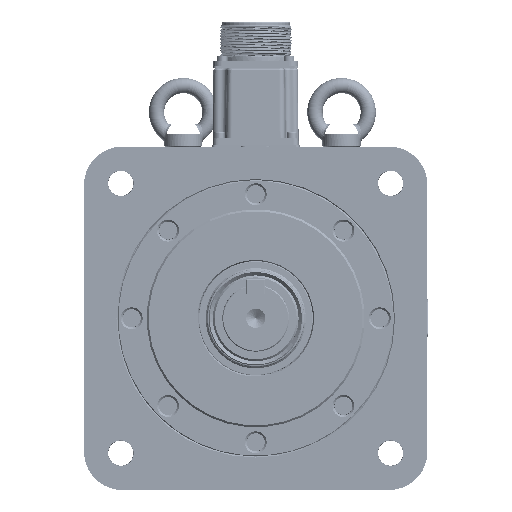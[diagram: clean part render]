
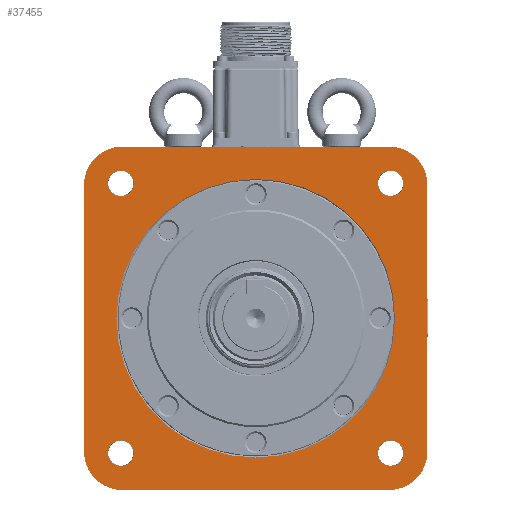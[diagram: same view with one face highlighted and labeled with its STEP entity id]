
A CAD part, front view. The second image highlights one B-rep face of the part: STEP entity #37455.
In plain terms, the highlighted planar face has unit normal (0, -1, 0).
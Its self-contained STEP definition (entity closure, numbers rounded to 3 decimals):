
#2858=LINE('',#69357,#5470);
#2942=LINE('',#73485,#5554);
#2947=LINE('',#73493,#5559);
#2952=LINE('',#73501,#5564);
#5470=VECTOR('',#48229,1000.);
#5554=VECTOR('',#49143,1000.);
#5559=VECTOR('',#49150,1000.);
#5564=VECTOR('',#49157,1000.);
#8065=PLANE('',#41020);
#15096=ORIENTED_EDGE('',*,*,#21872,.T.);
#15097=ORIENTED_EDGE('',*,*,#21787,.F.);
#15098=ORIENTED_EDGE('',*,*,#21796,.F.);
#15099=ORIENTED_EDGE('',*,*,#21817,.F.);
#15100=ORIENTED_EDGE('',*,*,#21807,.F.);
#15101=ORIENTED_EDGE('',*,*,#21843,.T.);
#15102=ORIENTED_EDGE('',*,*,#21847,.T.);
#15103=ORIENTED_EDGE('',*,*,#21838,.T.);
#15104=ORIENTED_EDGE('',*,*,#21848,.T.);
#15105=ORIENTED_EDGE('',*,*,#21833,.T.);
#15106=ORIENTED_EDGE('',*,*,#21849,.T.);
#15107=ORIENTED_EDGE('',*,*,#21363,.T.);
#15108=ORIENTED_EDGE('',*,*,#21846,.T.);
#21363=EDGE_CURVE('',#25600,#25599,#2858,.T.);
#21787=EDGE_CURVE('',#25880,#25880,#28142,.F.);
#21796=EDGE_CURVE('',#25888,#25888,#28148,.F.);
#21807=EDGE_CURVE('',#25898,#25898,#28156,.F.);
#21817=EDGE_CURVE('',#25908,#25908,#28162,.F.);
#21833=EDGE_CURVE('',#25919,#25918,#2942,.T.);
#21838=EDGE_CURVE('',#25921,#25920,#2947,.T.);
#21843=EDGE_CURVE('',#25923,#25922,#2952,.T.);
#21846=EDGE_CURVE('',#25599,#25923,#28168,.F.);
#21847=EDGE_CURVE('',#25922,#25921,#28169,.F.);
#21848=EDGE_CURVE('',#25920,#25919,#28170,.F.);
#21849=EDGE_CURVE('',#25918,#25600,#28171,.F.);
#21872=EDGE_CURVE('',#25934,#25934,#28182,.T.);
#25599=VERTEX_POINT('',#69356);
#25600=VERTEX_POINT('',#69358);
#25880=VERTEX_POINT('',#73388);
#25888=VERTEX_POINT('',#73407);
#25898=VERTEX_POINT('',#73432);
#25908=VERTEX_POINT('',#73454);
#25918=VERTEX_POINT('',#73484);
#25919=VERTEX_POINT('',#73486);
#25920=VERTEX_POINT('',#73492);
#25921=VERTEX_POINT('',#73494);
#25922=VERTEX_POINT('',#73500);
#25923=VERTEX_POINT('',#73502);
#25934=VERTEX_POINT('',#73566);
#28142=CIRCLE('',#40942,6.745);
#28148=CIRCLE('',#40950,6.745);
#28156=CIRCLE('',#40962,6.745);
#28162=CIRCLE('',#40970,6.745);
#28168=CIRCLE('',#40984,20.);
#28169=CIRCLE('',#40986,20.);
#28170=CIRCLE('',#40988,20.);
#28171=CIRCLE('',#40990,20.);
#28182=CIRCLE('',#41021,73.);
#30807=EDGE_LOOP('',(#15096));
#30808=EDGE_LOOP('',(#15097));
#30809=EDGE_LOOP('',(#15098));
#30810=EDGE_LOOP('',(#15099));
#30811=EDGE_LOOP('',(#15100));
#30812=EDGE_LOOP('',(#15101,#15102,#15103,#15104,#15105,#15106,#15107,#15108));
#34122=FACE_BOUND('',#30807,.T.);
#34123=FACE_BOUND('',#30808,.T.);
#34124=FACE_BOUND('',#30809,.T.);
#34125=FACE_BOUND('',#30810,.T.);
#34126=FACE_BOUND('',#30811,.T.);
#34127=FACE_BOUND('',#30812,.T.);
#37455=ADVANCED_FACE('',(#34122,#34123,#34124,#34125,#34126,#34127),#8065,
 .F.);
#40942=AXIS2_PLACEMENT_3D('',#73387,#49045,#49046);
#40950=AXIS2_PLACEMENT_3D('',#73406,#49064,#49065);
#40962=AXIS2_PLACEMENT_3D('',#73431,#49091,#49092);
#40970=AXIS2_PLACEMENT_3D('',#73453,#49111,#49112);
#40984=AXIS2_PLACEMENT_3D('',#73506,#49162,#49163);
#40986=AXIS2_PLACEMENT_3D('',#73508,#49166,#49167);
#40988=AXIS2_PLACEMENT_3D('',#73510,#49170,#49171);
#40990=AXIS2_PLACEMENT_3D('',#73512,#49174,#49175);
#41020=AXIS2_PLACEMENT_3D('',#73564,#49246,#49247);
#41021=AXIS2_PLACEMENT_3D('',#73565,#49248,#49249);
#48229=DIRECTION('',(-1.,0.,0.));
#49045=DIRECTION('',(0.,1.,0.));
#49046=DIRECTION('',(0.,0.,1.));
#49064=DIRECTION('',(0.,1.,0.));
#49065=DIRECTION('',(0.,0.,1.));
#49091=DIRECTION('',(0.,1.,0.));
#49092=DIRECTION('',(0.,0.,1.));
#49111=DIRECTION('',(0.,1.,0.));
#49112=DIRECTION('',(0.,0.,1.));
#49143=DIRECTION('',(0.,0.,1.));
#49150=DIRECTION('',(1.,0.,0.));
#49157=DIRECTION('',(0.,0.,-1.));
#49162=DIRECTION('',(0.,1.,0.));
#49163=DIRECTION('',(0.,0.,1.));
#49166=DIRECTION('',(0.,1.,0.));
#49167=DIRECTION('',(0.,0.,1.));
#49170=DIRECTION('',(0.,1.,0.));
#49171=DIRECTION('',(0.,0.,1.));
#49174=DIRECTION('',(0.,1.,0.));
#49175=DIRECTION('',(0.,0.,1.));
#49246=DIRECTION('',(0.,1.,0.));
#49247=DIRECTION('',(0.,0.,1.));
#49248=DIRECTION('',(0.,1.,0.));
#49249=DIRECTION('',(0.,0.,1.));
#69356=CARTESIAN_POINT('',(-70.,1.3,90.));
#69357=CARTESIAN_POINT('',(90.,1.3,90.));
#69358=CARTESIAN_POINT('',(70.,1.3,90.));
#73387=CARTESIAN_POINT('',(-70.711,1.3,70.711));
#73388=CARTESIAN_POINT('',(-70.711,1.3,77.455));
#73406=CARTESIAN_POINT('',(70.711,1.3,70.711));
#73407=CARTESIAN_POINT('',(70.711,1.3,77.455));
#73431=CARTESIAN_POINT('',(-70.711,1.3,-70.711));
#73432=CARTESIAN_POINT('',(-70.711,1.3,-63.966));
#73453=CARTESIAN_POINT('',(70.711,1.3,-70.711));
#73454=CARTESIAN_POINT('',(70.711,1.3,-63.966));
#73484=CARTESIAN_POINT('',(90.,1.3,70.));
#73485=CARTESIAN_POINT('',(90.,1.3,-90.));
#73486=CARTESIAN_POINT('',(90.,1.3,-70.));
#73492=CARTESIAN_POINT('',(70.,1.3,-90.));
#73493=CARTESIAN_POINT('',(-90.,1.3,-90.));
#73494=CARTESIAN_POINT('',(-70.,1.3,-90.));
#73500=CARTESIAN_POINT('',(-90.,1.3,-70.));
#73501=CARTESIAN_POINT('',(-90.,1.3,90.));
#73502=CARTESIAN_POINT('',(-90.,1.3,70.));
#73506=CARTESIAN_POINT('',(-70.,1.3,70.));
#73508=CARTESIAN_POINT('',(-70.,1.3,-70.));
#73510=CARTESIAN_POINT('',(70.,1.3,-70.));
#73512=CARTESIAN_POINT('',(70.,1.3,70.));
#73564=CARTESIAN_POINT('',(0.,1.3,72.5));
#73565=CARTESIAN_POINT('',(0.,1.3,0.));
#73566=CARTESIAN_POINT('',(0.,1.3,73.));
